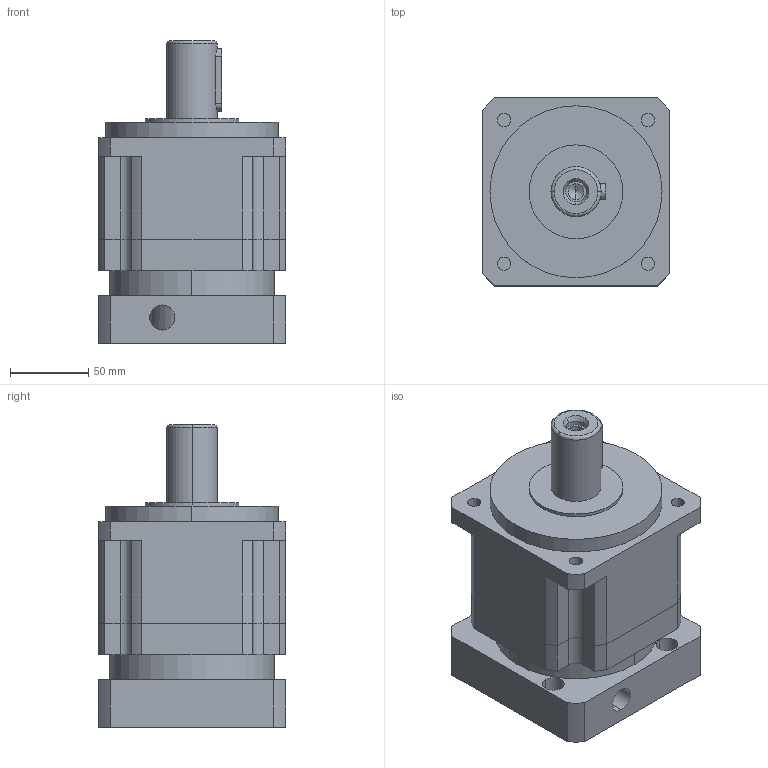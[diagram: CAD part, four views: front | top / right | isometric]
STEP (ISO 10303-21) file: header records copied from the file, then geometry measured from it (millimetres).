
FILE_DESCRIPTION (( 'STEP AP203' ), '1' );
FILE_NAME ('PAG120-L1-24-95-115.STEP', '2024-06-15T01:48:57', ( 'Windows User' ), ( 'P R C' ), 'SwSTEP 2.0', 'SolidWorks 2016', '' );
FILE_SCHEMA (( 'CONFIG_CONTROL_DESIGN' ));
Length unit declared in the file: millimetre
Products named in the file (7): PAG120-蟀諉-95-M6-115-LR60; 囀鞠褒蹟佪-M8℅25; 邧埴瑩 10x8x40; 粣創-6009 45x75x16; PAG120-L1-24-95-115; PAG120-本体齿圈; PAG120-薊粣ん-24_LZ03
Assembly tree (6 placements, depth 2):
  PAG120-L1-24-95-115
    PAG120-本体齿圈
    PAG120-薊粣ん-24_LZ03
    PAG120-蟀諉-95-M6-115-LR60
    囀鞠褒蹟佪-M8℅25
    邧埴瑩 10x8x40
    粣創-6009 45x75x16
Bounding box: 120 x 120 x 193.5 mm (x, y, z)
Volume: 1599346.4 mm3; surface area: 209234.9 mm2
Topology: 6 solids, 6 shells, 990 faces, 2761 edges, 1823 vertices
Faces by surface type: plane 552, cylinder 152, bspline 137, sphere 83, torus 50, cone 16
Entity records: 42045 total; most frequent: CARTESIAN_POINT 17046, ORIENTED_EDGE 5418, DIRECTION 4398, EDGE_CURVE 2709, VERTEX_POINT 1794, VECTOR 1578, LINE 1578, AXIS2_PLACEMENT_3D 1410
